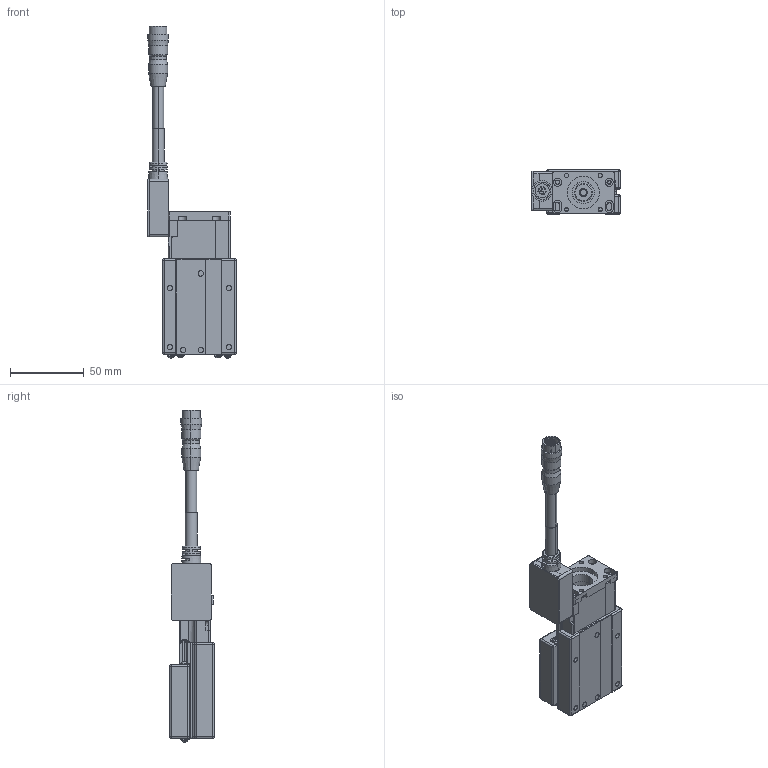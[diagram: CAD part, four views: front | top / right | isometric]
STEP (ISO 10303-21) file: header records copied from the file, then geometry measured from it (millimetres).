
FILE_DESCRIPTION (( 'STEP AP203' ), '1' );
FILE_NAME ('CXS5030(28框無馬達).STEP', '2023-12-25T06:09:15', ( '' ), ( '' ), 'SwSTEP 2.0', 'SolidWorks 2019', '' );
FILE_SCHEMA (( 'CONFIG_CONTROL_DESIGN' ));
Length unit declared in the file: millimetre
Products named in the file (5): CXS50-G28_GMT; CXS5030(28框無馬達); Group1^CXS5030(28框無馬達)_defeature_GMT; HR10A-10J-12P; Group2^CXS5030(28框無馬達)_defeature_GMT
Assembly tree (4 placements, depth 2):
  CXS5030(28框無馬達)
    Group1^CXS5030(28框無馬達)_defeature_GMT
    Group2^CXS5030(28框無馬達)_defeature_GMT
    HR10A-10J-12P
    CXS50-G28_GMT
Bounding box: 60 x 30 x 225.51 mm (x, y, z)
Volume: 99541.8 mm3; surface area: 53381.9 mm2
Topology: 9 solids, 9 shells, 4729 faces, 12246 edges, 7760 vertices
Faces by surface type: plane 2523, bspline 1221, cylinder 725, cone 127, sphere 88, torus 45
Entity records: 157800 total; most frequent: CARTESIAN_POINT 51860, ORIENTED_EDGE 24308, DIRECTION 17270, EDGE_CURVE 12154, VERTEX_POINT 7760, LINE 6978, VECTOR 6978, EDGE_LOOP 5186
